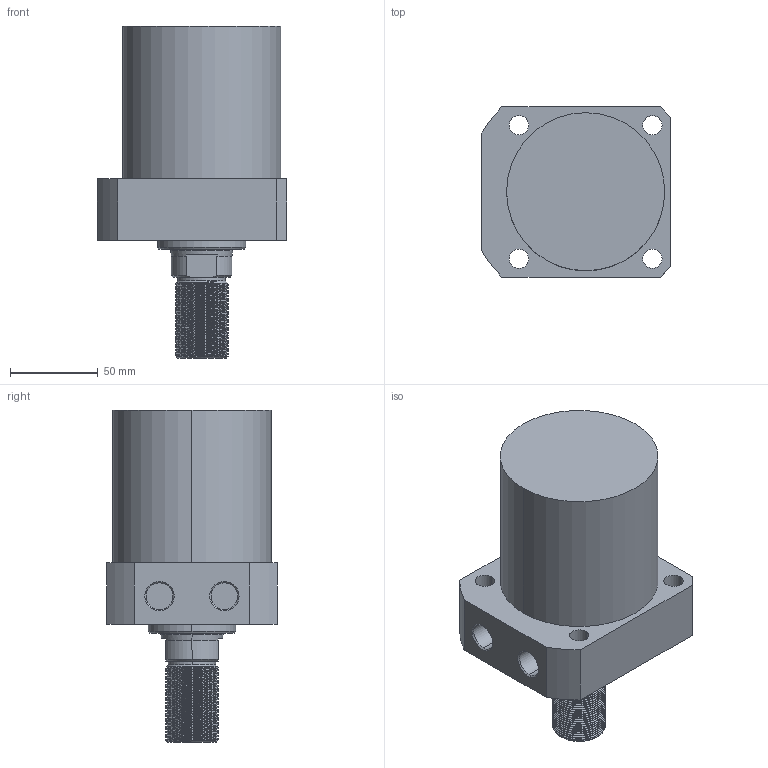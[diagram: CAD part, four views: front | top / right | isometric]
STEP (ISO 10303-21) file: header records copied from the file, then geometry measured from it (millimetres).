
FILE_DESCRIPTION (( 'STEP AP214' ), '1' );
FILE_NAME ('CLLR-090CT-065.STEP', '2020-01-09T06:51:15', ( 'Windows' ), ( 'Microsoft' ), 'SwSTEP 2.0', 'SolidWorks 2015', '' );
FILE_SCHEMA (( 'AUTOMOTIVE_DESIGN' ));
Length unit declared in the file: millimetre
Products named in the file (1): CLLR-090CT-065
Bounding box: 108 x 97 x 189 mm (x, y, z)
Volume: 945654.2 mm3; surface area: 74390.2 mm2
Topology: 1 solids, 1 shells, 123 faces, 327 edges, 214 vertices
Faces by surface type: cylinder 86, plane 20, cone 15, bspline 2
Entity records: 6958 total; most frequent: CARTESIAN_POINT 4152, ORIENTED_EDGE 654, DIRECTION 518, EDGE_CURVE 327, VERTEX_POINT 214, AXIS2_PLACEMENT_3D 198, EDGE_LOOP 139, ADVANCED_FACE 123
